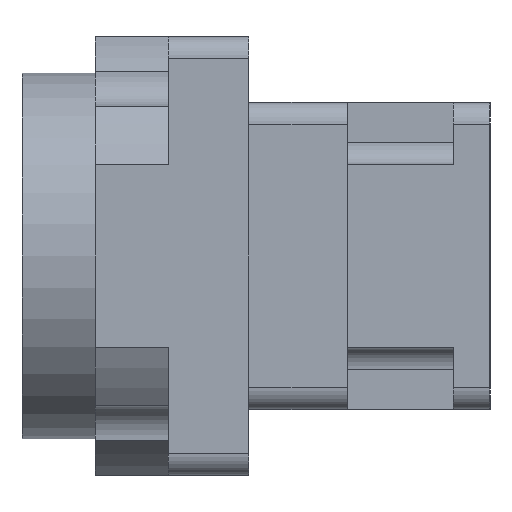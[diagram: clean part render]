
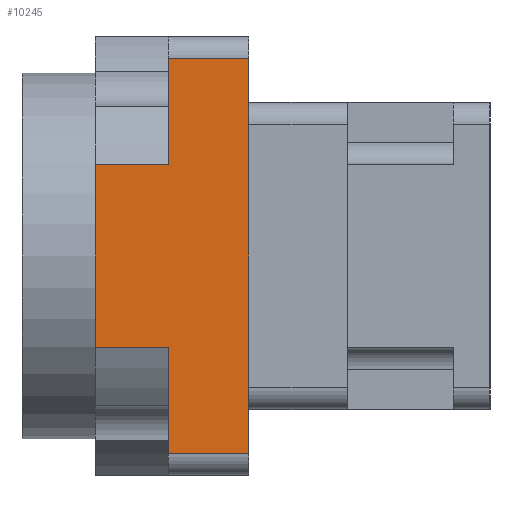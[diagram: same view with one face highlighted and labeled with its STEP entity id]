
A CAD part, left-side view. The second image highlights one B-rep face of the part: STEP entity #10245.
In plain terms, the highlighted planar face has unit normal (-1, 0, 0).
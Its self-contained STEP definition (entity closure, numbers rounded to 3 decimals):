
#70 = CARTESIAN_POINT ( 'NONE',  ( -30., 21., -12.5 ) ) ;
#680 = LINE ( 'NONE', #8468, #4203 ) ;
#837 = LINE ( 'NONE', #5562, #8729 ) ;
#1208 = CARTESIAN_POINT ( 'NONE',  ( -30., 11., 27. ) ) ;
#2263 = CARTESIAN_POINT ( 'NONE',  ( -30., 21., -12.5 ) ) ;
#2278 = VERTEX_POINT ( 'NONE', #10458 ) ;
#2761 = ORIENTED_EDGE ( 'NONE', *, *, #12172, .T. ) ;
#3392 = ORIENTED_EDGE ( 'NONE', *, *, #10133, .T. ) ;
#3562 = CARTESIAN_POINT ( 'NONE',  ( -30., 11., 12.5 ) ) ;
#3676 = VERTEX_POINT ( 'NONE', #9716 ) ;
#3858 = ORIENTED_EDGE ( 'NONE', *, *, #4895, .T. ) ;
#3872 = EDGE_CURVE ( 'NONE', #10123, #6794, #9957, .T. ) ;
#3952 = LINE ( 'NONE', #6697, #9689 ) ;
#4203 = VECTOR ( 'NONE', #5656, 1000. ) ;
#4253 = LINE ( 'NONE', #5977, #8058 ) ;
#4295 = EDGE_CURVE ( 'NONE', #10802, #2278, #9034, .T. ) ;
#4375 = VECTOR ( 'NONE', #8259, 1000. ) ;
#4497 = VERTEX_POINT ( 'NONE', #5069 ) ;
#4602 = ORIENTED_EDGE ( 'NONE', *, *, #9822, .F. ) ;
#4737 = LINE ( 'NONE', #70, #9079 ) ;
#4829 = PLANE ( 'NONE',  #7252 ) ;
#4844 = DIRECTION ( 'NONE',  ( 0., 0., 1. ) ) ;
#4895 = EDGE_CURVE ( 'NONE', #10802, #4497, #4737, .T. ) ;
#5069 = CARTESIAN_POINT ( 'NONE',  ( -30., 11., -12.5 ) ) ;
#5106 = DIRECTION ( 'NONE',  ( 0., -1., 0. ) ) ;
#5339 = EDGE_CURVE ( 'NONE', #6698, #10123, #8330, .T. ) ;
#5465 = CARTESIAN_POINT ( 'NONE',  ( -30., 11., 27. ) ) ;
#5562 = CARTESIAN_POINT ( 'NONE',  ( -30., 0., -27. ) ) ;
#5648 = ORIENTED_EDGE ( 'NONE', *, *, #3872, .F. ) ;
#5654 = DIRECTION ( 'NONE',  ( 0., 0., 1. ) ) ;
#5656 = DIRECTION ( 'NONE',  ( 0., -1., 0. ) ) ;
#5689 = DIRECTION ( 'NONE',  ( 0., 0., 1. ) ) ;
#5977 = CARTESIAN_POINT ( 'NONE',  ( -30., 21., 12.5 ) ) ;
#6038 = EDGE_LOOP ( 'NONE', ( #2761, #5648, #9800, #11063, #9295, #3858, #4602, #3392 ) ) ;
#6697 = CARTESIAN_POINT ( 'NONE',  ( -30., 11., -27. ) ) ;
#6698 = VERTEX_POINT ( 'NONE', #3562 ) ;
#6794 = VERTEX_POINT ( 'NONE', #9806 ) ;
#6813 = DIRECTION ( 'NONE',  ( 1., 0., 0. ) ) ;
#7252 = AXIS2_PLACEMENT_3D ( 'NONE', #8719, #6813, #10697 ) ;
#7944 = DIRECTION ( 'NONE',  ( 0., -1., 0. ) ) ;
#8058 = VECTOR ( 'NONE', #7944, 1000. ) ;
#8164 = CARTESIAN_POINT ( 'NONE',  ( -30., 21., -12.5 ) ) ;
#8259 = DIRECTION ( 'NONE',  ( 0., 0., 1. ) ) ;
#8330 = LINE ( 'NONE', #11390, #10065 ) ;
#8468 = CARTESIAN_POINT ( 'NONE',  ( -30., 11., -27. ) ) ;
#8624 = DIRECTION ( 'NONE',  ( 0., -1., 0. ) ) ;
#8639 = VECTOR ( 'NONE', #5106, 1000. ) ;
#8719 = CARTESIAN_POINT ( 'NONE',  ( -30., 11., -27. ) ) ;
#8729 = VECTOR ( 'NONE', #5689, 1000. ) ;
#8836 = VERTEX_POINT ( 'NONE', #9468 ) ;
#9034 = LINE ( 'NONE', #2263, #4375 ) ;
#9079 = VECTOR ( 'NONE', #8624, 1000. ) ;
#9295 = ORIENTED_EDGE ( 'NONE', *, *, #4295, .F. ) ;
#9468 = CARTESIAN_POINT ( 'NONE',  ( -30., 0., -27. ) ) ;
#9678 = FACE_OUTER_BOUND ( 'NONE', #6038, .T. ) ;
#9689 = VECTOR ( 'NONE', #4844, 1000. ) ;
#9716 = CARTESIAN_POINT ( 'NONE',  ( -30., 11., -27. ) ) ;
#9800 = ORIENTED_EDGE ( 'NONE', *, *, #5339, .F. ) ;
#9806 = CARTESIAN_POINT ( 'NONE',  ( -30., 0., 27. ) ) ;
#9822 = EDGE_CURVE ( 'NONE', #3676, #4497, #3952, .T. ) ;
#9957 = LINE ( 'NONE', #1208, #8639 ) ;
#10065 = VECTOR ( 'NONE', #5654, 1000. ) ;
#10123 = VERTEX_POINT ( 'NONE', #5465 ) ;
#10133 = EDGE_CURVE ( 'NONE', #3676, #8836, #680, .T. ) ;
#10245 = ADVANCED_FACE ( 'NONE', ( #9678 ), #4829, .F. ) ;
#10301 = EDGE_CURVE ( 'NONE', #2278, #6698, #4253, .T. ) ;
#10458 = CARTESIAN_POINT ( 'NONE',  ( -30., 21., 12.5 ) ) ;
#10697 = DIRECTION ( 'NONE',  ( 0., 0., -1. ) ) ;
#10802 = VERTEX_POINT ( 'NONE', #8164 ) ;
#11063 = ORIENTED_EDGE ( 'NONE', *, *, #10301, .F. ) ;
#11390 = CARTESIAN_POINT ( 'NONE',  ( -30., 11., -27. ) ) ;
#12172 = EDGE_CURVE ( 'NONE', #8836, #6794, #837, .T. ) ;
